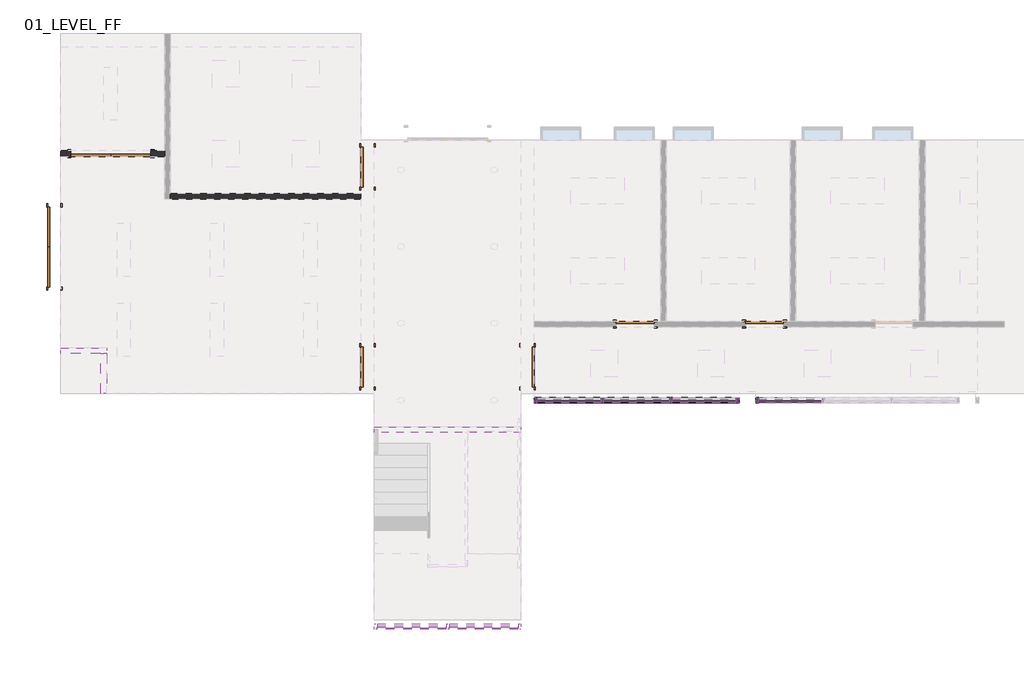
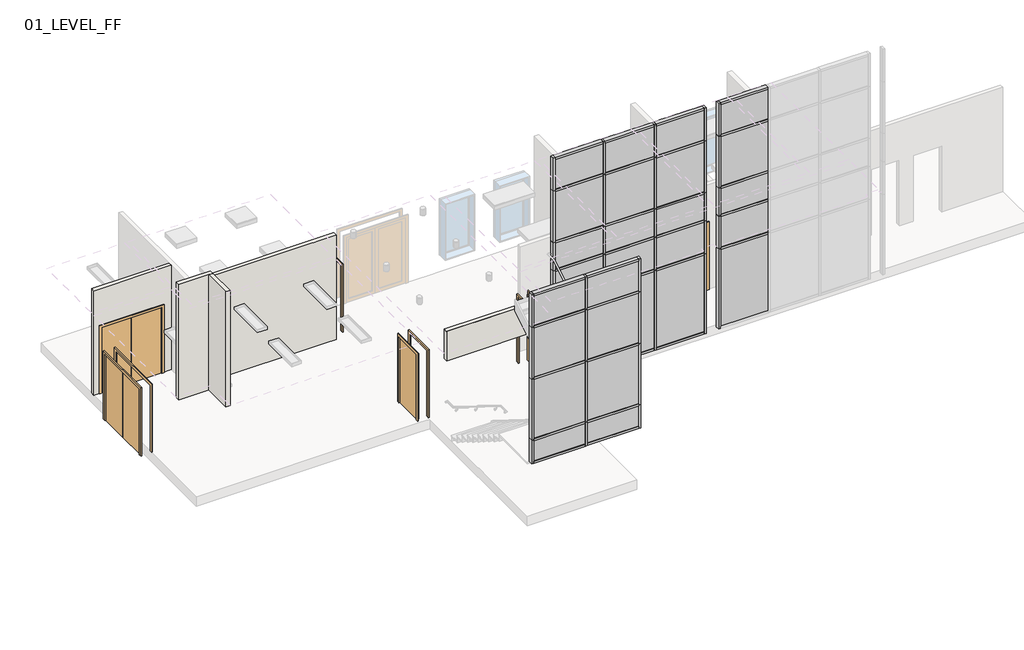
# One storey, part 1 of 3: 70 members, 28 plates, 7 doors, 5 walls.
"""IFC4 building model written with IfcOpenShell, lengths in millimetres."""

from ifc_helpers import new_model, si_unit, frame, origin, origin_with_axes, place, context, project, spatial, polyline, outline, extrude, faceted_brep, transform, mapped, element, save
from components import door_25d5a9ee, door_a672a27a, door_11f27327, door_180caff1, door_0eca04c9, member_247435d8, member_ca25ccc8, member_61742b2b, member_a715cb85, member_38e9bff8, member_3d45eb2f, member_c4de40ee, member_aa870034, member_062c1ce8, member_63e6437c, member_db72e543, member_00559c8f, member_41892664, member_cc0a3030, member_a8b93c61, member_410c6227, member_9f3fc137, member_73c23c35, member_a139046c, member_894628af, system_panel_glazed_a4485813, system_panel_glazed_9146deb3, system_panel_glazed_436c25eb, system_panel_glazed_93778ba0, system_panel_glazed_d206c218, system_panel_glazed_9321428d, system_panel_glazed_8d4e5907, system_panel_glazed_67cff217, system_panel_glazed_e6de4e38, system_panel_glazed_86ca5771, system_panel_glazed_09342f65, system_panel_glazed_67fd8e91, system_panel_solid_39076b36, system_panel_solid_c6db35ca, system_panel_solid_b1352277, system_panel_solid_d860d0ae, system_panel_solid_060e9704, system_panel_solid_47bad419, system_panel_solid_f38910df

model = new_model("IFC4")

# Units and contexts
model_context = context("Model", 3, world=origin())
ifc_project = project(units=[si_unit("LENGTHUNIT", "METRE", prefix="MILLI")], contexts=[model_context])

# Site, building, storey
site = spatial("IfcSite", under=ifc_project)
building = spatial("IfcBuilding", under=site)
storey = spatial("IfcBuildingStorey", under=building, Name="01_LEVEL_FF", Elevation=0.0)

# Doors
placement = place(None, origin())
door_shape = door_25d5a9ee(model_context)
element("IfcDoor", 1, ObjectType="Door-Double-Flush_Panel : 72\" x 84\"", at=placement, inside=storey, context=model_context, shape_type="MappedRepresentation", body=[
    mapped(door_shape, transform((22260.7816981, 31655.1332157, 0.0), x_axis=(-1.0, 0.0, 0.0), y_axis=(0.0, -1.0, 0.0), z_axis=(0.0, 0.0, 1.0))),
])
door_2_shape = door_a672a27a(model_context)
element("IfcDoor", 2, ObjectType="Door-Double-Flush_Panel : 72\" x 84\"", at=placement, inside=storey, context=model_context, shape_type="MappedRepresentation", body=[
    mapped(door_2_shape, transform((20965.3816981, 29521.5332157, 0.0), x_axis=(0.0, -1.0, 0.0), y_axis=(1.0, 0.0, 0.0), z_axis=(0.0, 0.0, 1.0))),
])
door_3_shape = door_11f27327(model_context)
element("IfcDoor", 3, ObjectType="Door-Single-Panel : 34\" x 84\"", at=placement, inside=storey, context=model_context, shape_type="MappedRepresentation", body=[
    mapped(door_3_shape, transform((34247.0416981, 27756.2332157, 0.0), x_axis=(1.0, 0.0, 0.0), y_axis=(0.0, 1.0, 0.0), z_axis=(0.0, 0.0, 1.0))),
])
element("IfcDoor", 4, ObjectType="Door-Single-Panel : 34\" x 84\"", at=placement, inside=storey, context=model_context, shape_type="MappedRepresentation", body=[
    mapped(door_3_shape, transform((37203.6016981, 27756.2332157, 0.0), x_axis=(1.0, 0.0, 0.0), y_axis=(0.0, 1.0, 0.0), z_axis=(0.0, 0.0, 1.0))),
])
door_4_shape = door_180caff1(model_context)
element("IfcDoor", 5, ObjectType="Door-Single-Panel : 36\" x 84\"", at=placement, inside=storey, context=model_context, shape_type="MappedRepresentation", body=[
    mapped(door_4_shape, transform((31785.7816981, 26778.3332157, 0.0), x_axis=(0.0, -1.0, 0.0), y_axis=(1.0, 0.0, 0.0), z_axis=(0.0, 0.0, 1.0))),
])
door_5_shape = door_0eca04c9(model_context)
element("IfcDoor", 6, ObjectType="Door-Single-Panel : 36\" x 84\"", at=placement, inside=storey, context=model_context, shape_type="MappedRepresentation", body=[
    mapped(door_5_shape, transform((28128.1816981, 26778.3332157, 0.0), x_axis=(0.0, -1.0, 0.0), y_axis=(1.0, 0.0, 0.0), z_axis=(0.0, 0.0, 1.0))),
])
element("IfcDoor", 7, ObjectType="Door-Single-Panel : 36\" x 84\"", at=placement, inside=storey, context=model_context, shape_type="MappedRepresentation", body=[
    mapped(door_5_shape, transform((28128.1816981, 31350.3332157, 0.0), x_axis=(0.0, -1.0, 0.0), y_axis=(1.0, 0.0, 0.0), z_axis=(0.0, 0.0, 1.0))),
])

# Members
member_shape = member_247435d8(model_context)
element("IfcMember", 8, ObjectType="Rectangular Mullion : 2.5\" x 5\" rectangular", at=placement, inside=storey, context=model_context, shape_type="MappedRepresentation", body=[
    mapped(member_shape, transform((28344.0816981, 20834.7332157, 7315.2), x_axis=(0.0, 0.0, 1.0), y_axis=(0.0, 1.0, 0.0), z_axis=(-1.0, 0.0, 0.0))),
])
element("IfcMember", 9, ObjectType="Rectangular Mullion : 2.5\" x 5\" rectangular", at=placement, inside=storey, context=model_context, shape_type="MappedRepresentation", body=[
    mapped(member_shape, transform((29988.7316981, 20834.7332157, 7315.2), x_axis=(0.0, 0.0, 1.0), y_axis=(0.0, 1.0, 0.0), z_axis=(-1.0, 0.0, 0.0))),
])
element("IfcMember", 10, ObjectType="Rectangular Mullion : 2.5\" x 5\" rectangular", at=placement, inside=storey, context=model_context, shape_type="MappedRepresentation", body=[
    mapped(member_shape, transform((31569.8816981, 20834.7332157, 1828.8), x_axis=(0.0, 0.0, -1.0), y_axis=(0.0, 1.0, 0.0), z_axis=(1.0, 0.0, 0.0))),
])
element("IfcMember", 11, ObjectType="Rectangular Mullion : 2.5\" x 5\" rectangular", at=placement, inside=storey, context=model_context, shape_type="MappedRepresentation", body=[
    mapped(member_shape, transform((29925.2316981, 20834.7332157, 1828.8), x_axis=(0.0, 0.0, -1.0), y_axis=(0.0, 1.0, 0.0), z_axis=(1.0, 0.0, 0.0))),
])
member_2_shape = member_ca25ccc8(model_context)
element("IfcMember", 12, ObjectType="Rectangular Mullion : 2.5\" x 5\" rectangular", at=placement, inside=storey, context=model_context, shape_type="MappedRepresentation", body=[
    mapped(member_2_shape, transform((29988.7316981, 20834.7332157, 6248.4), x_axis=(0.0, 0.0, 1.0), y_axis=(0.0, 1.0, 0.0), z_axis=(-1.0, 0.0, 0.0))),
])
element("IfcMember", 13, ObjectType="Rectangular Mullion : 2.5\" x 5\" rectangular", at=placement, inside=storey, context=model_context, shape_type="MappedRepresentation", body=[
    mapped(member_2_shape, transform((28344.0816981, 20834.7332157, 6248.4), x_axis=(0.0, 0.0, 1.0), y_axis=(0.0, 1.0, 0.0), z_axis=(-1.0, 0.0, 0.0))),
])
element("IfcMember", 14, ObjectType="Rectangular Mullion : 2.5\" x 5\" rectangular", at=placement, inside=storey, context=model_context, shape_type="MappedRepresentation", body=[
    mapped(member_2_shape, transform((29988.7316981, 20834.7332157, 4572.0), x_axis=(0.0, 0.0, 1.0), y_axis=(0.0, 1.0, 0.0), z_axis=(-1.0, 0.0, 0.0))),
])
element("IfcMember", 15, ObjectType="Rectangular Mullion : 2.5\" x 5\" rectangular", at=placement, inside=storey, context=model_context, shape_type="MappedRepresentation", body=[
    mapped(member_2_shape, transform((28344.0816981, 20834.7332157, 4572.0), x_axis=(0.0, 0.0, 1.0), y_axis=(0.0, 1.0, 0.0), z_axis=(-1.0, 0.0, 0.0))),
])
element("IfcMember", 16, ObjectType="Rectangular Mullion : 2.5\" x 5\" rectangular", at=placement, inside=storey, context=model_context, shape_type="MappedRepresentation", body=[
    mapped(member_2_shape, transform((29988.7316981, 20834.7332157, 2590.8), x_axis=(0.0, 0.0, 1.0), y_axis=(0.0, 1.0, 0.0), z_axis=(-1.0, 0.0, 0.0))),
])
element("IfcMember", 17, ObjectType="Rectangular Mullion : 2.5\" x 5\" rectangular", at=placement, inside=storey, context=model_context, shape_type="MappedRepresentation", body=[
    mapped(member_2_shape, transform((28344.0816981, 20834.7332157, 2590.8), x_axis=(0.0, 0.0, 1.0), y_axis=(0.0, 1.0, 0.0), z_axis=(-1.0, 0.0, 0.0))),
])
member_3_shape = member_61742b2b(model_context)
element("IfcMember", 18, ObjectType="Rectangular Mullion : 2.5\" x 5\" rectangular", at=placement, inside=storey, context=model_context, shape_type="MappedRepresentation", body=[
    mapped(member_3_shape, transform((29956.9816981, 20834.7332157, 1828.8), x_axis=(-1.0, 0.0, 0.0), y_axis=(0.0, 1.0, 0.0), z_axis=(0.0, 0.0, -1.0))),
])
member_4_shape = member_a715cb85(model_context)
element("IfcMember", 19, ObjectType="Rectangular Mullion : 2.5\" x 5\" rectangular", at=placement, inside=storey, context=model_context, shape_type="MappedRepresentation", body=[
    mapped(member_4_shape, transform((29956.9816981, 20834.7332157, 6248.4), x_axis=(-1.0, 0.0, 0.0), y_axis=(0.0, 1.0, 0.0), z_axis=(0.0, 0.0, -1.0))),
])
element("IfcMember", 20, ObjectType="Rectangular Mullion : 2.5\" x 5\" rectangular", at=placement, inside=storey, context=model_context, shape_type="MappedRepresentation", body=[
    mapped(member_4_shape, transform((33500.2816981, 26016.3332157, 6248.4), x_axis=(-1.0, 0.0, 0.0), y_axis=(0.0, 1.0, 0.0), z_axis=(0.0, 0.0, -1.0))),
])
element("IfcMember", 21, ObjectType="Rectangular Mullion : 2.5\" x 5\" rectangular", at=placement, inside=storey, context=model_context, shape_type="MappedRepresentation", body=[
    mapped(member_4_shape, transform((35062.3816981, 26016.3332157, 6248.4), x_axis=(-1.0, 0.0, 0.0), y_axis=(0.0, 1.0, 0.0), z_axis=(0.0, 0.0, -1.0))),
])
member_5_shape = member_38e9bff8(model_context)
element("IfcMember", 22, ObjectType="Rectangular Mullion : 2.5\" x 5\" rectangular", at=placement, inside=storey, context=model_context, shape_type="MappedRepresentation", body=[
    mapped(member_5_shape, transform((29956.9816981, 20834.7332157, 4572.0), x_axis=(-1.0, 0.0, 0.0), y_axis=(0.0, 1.0, 0.0), z_axis=(0.0, 0.0, -1.0))),
])
element("IfcMember", 23, ObjectType="Rectangular Mullion : 2.5\" x 5\" rectangular", at=placement, inside=storey, context=model_context, shape_type="MappedRepresentation", body=[
    mapped(member_5_shape, transform((33500.2816981, 26016.3332157, 4572.0), x_axis=(-1.0, 0.0, 0.0), y_axis=(0.0, 1.0, 0.0), z_axis=(0.0, 0.0, -1.0))),
])
element("IfcMember", 24, ObjectType="Rectangular Mullion : 2.5\" x 5\" rectangular", at=placement, inside=storey, context=model_context, shape_type="MappedRepresentation", body=[
    mapped(member_5_shape, transform((35062.3816981, 26016.3332157, 4572.0), x_axis=(-1.0, 0.0, 0.0), y_axis=(0.0, 1.0, 0.0), z_axis=(0.0, 0.0, -1.0))),
])
member_6_shape = member_3d45eb2f(model_context)
element("IfcMember", 25, ObjectType="Rectangular Mullion : 2.5\" x 5\" rectangular", at=placement, inside=storey, context=model_context, shape_type="MappedRepresentation", body=[
    mapped(member_6_shape, transform((29956.9816981, 20834.7332157, 2590.8), x_axis=(-1.0, 0.0, 0.0), y_axis=(0.0, 1.0, 0.0), z_axis=(0.0, 0.0, -1.0))),
])
member_7_shape = member_c4de40ee(model_context)
element("IfcMember", 26, ObjectType="Rectangular Mullion : 2.5\" x 5\" rectangular", at=placement, inside=storey, context=model_context, shape_type="MappedRepresentation", body=[
    mapped(member_7_shape, transform((31633.3816981, 20834.7332157, 7315.2), x_axis=(1.0, 0.0, 0.0), y_axis=(0.0, 1.0, 0.0), z_axis=(0.0, 0.0, 1.0))),
])
element("IfcMember", 27, ObjectType="Rectangular Mullion : 2.5\" x 5\" rectangular", at=placement, inside=storey, context=model_context, shape_type="MappedRepresentation", body=[
    mapped(member_7_shape, transform((36624.4816981, 26016.3332157, 7315.2), x_axis=(1.0, 0.0, 0.0), y_axis=(0.0, 1.0, 0.0), z_axis=(0.0, 0.0, 1.0))),
])
member_8_shape = member_aa870034(model_context)
element("IfcMember", 28, ObjectType="Rectangular Mullion : 2.5\" x 5\" rectangular", at=placement, inside=storey, context=model_context, shape_type="MappedRepresentation", body=[
    mapped(member_8_shape, transform((28280.5816981, 20834.7332157, 1828.8), x_axis=(-1.0, 0.0, 0.0), y_axis=(0.0, 1.0, 0.0), z_axis=(0.0, 0.0, -1.0))),
])
element("IfcMember", 29, ObjectType="Rectangular Mullion : 2.5\" x 5\" rectangular", at=placement, inside=storey, context=model_context, shape_type="MappedRepresentation", body=[
    mapped(member_7_shape, transform((28280.5816981, 20834.7332157, 6248.4), x_axis=(-1.0, 0.0, 0.0), y_axis=(0.0, 1.0, 0.0), z_axis=(0.0, 0.0, -1.0))),
])
element("IfcMember", 30, ObjectType="Rectangular Mullion : 2.5\" x 5\" rectangular", at=placement, inside=storey, context=model_context, shape_type="MappedRepresentation", body=[
    mapped(member_7_shape, transform((31938.1816981, 26016.3332157, 6248.4), x_axis=(-1.0, 0.0, 0.0), y_axis=(0.0, 1.0, 0.0), z_axis=(0.0, 0.0, -1.0))),
])
element("IfcMember", 31, ObjectType="Rectangular Mullion : 2.5\" x 5\" rectangular", at=placement, inside=storey, context=model_context, shape_type="MappedRepresentation", body=[
    mapped(member_7_shape, transform((37005.4816981, 26016.3332157, 6248.4), x_axis=(-1.0, 0.0, 0.0), y_axis=(0.0, 1.0, 0.0), z_axis=(0.0, 0.0, -1.0))),
])
member_9_shape = member_062c1ce8(model_context)
element("IfcMember", 32, ObjectType="Rectangular Mullion : 2.5\" x 5\" rectangular", at=placement, inside=storey, context=model_context, shape_type="MappedRepresentation", body=[
    mapped(member_9_shape, transform((28280.5816981, 20834.7332157, 4572.0), x_axis=(-1.0, 0.0, 0.0), y_axis=(0.0, 1.0, 0.0), z_axis=(0.0, 0.0, -1.0))),
])
element("IfcMember", 33, ObjectType="Rectangular Mullion : 2.5\" x 5\" rectangular", at=placement, inside=storey, context=model_context, shape_type="MappedRepresentation", body=[
    mapped(member_9_shape, transform((31938.1816981, 26016.3332157, 4572.0), x_axis=(-1.0, 0.0, 0.0), y_axis=(0.0, 1.0, 0.0), z_axis=(0.0, 0.0, -1.0))),
])
element("IfcMember", 34, ObjectType="Rectangular Mullion : 2.5\" x 5\" rectangular", at=placement, inside=storey, context=model_context, shape_type="MappedRepresentation", body=[
    mapped(member_9_shape, transform((37005.4816981, 26016.3332157, 4572.0), x_axis=(-1.0, 0.0, 0.0), y_axis=(0.0, 1.0, 0.0), z_axis=(0.0, 0.0, -1.0))),
])
member_10_shape = member_63e6437c(model_context)
element("IfcMember", 35, ObjectType="Rectangular Mullion : 2.5\" x 5\" rectangular", at=placement, inside=storey, context=model_context, shape_type="MappedRepresentation", body=[
    mapped(member_10_shape, transform((28280.5816981, 20834.7332157, 2590.8), x_axis=(-1.0, 0.0, 0.0), y_axis=(0.0, 1.0, 0.0), z_axis=(0.0, 0.0, -1.0))),
])
element("IfcMember", 36, ObjectType="Rectangular Mullion : 2.5\" x 5\" rectangular", at=placement, inside=storey, context=model_context, shape_type="MappedRepresentation", body=[
    mapped(member_9_shape, transform((31633.3816981, 20834.7332157, 6248.4), x_axis=(1.0, 0.0, 0.0), y_axis=(0.0, 1.0, 0.0), z_axis=(0.0, 0.0, 1.0))),
])
element("IfcMember", 37, ObjectType="Rectangular Mullion : 2.5\" x 5\" rectangular", at=placement, inside=storey, context=model_context, shape_type="MappedRepresentation", body=[
    mapped(member_9_shape, transform((36624.4816981, 26016.3332157, 6248.4), x_axis=(1.0, 0.0, 0.0), y_axis=(0.0, 1.0, 0.0), z_axis=(0.0, 0.0, 1.0))),
])
element("IfcMember", 38, ObjectType="Rectangular Mullion : 2.5\" x 5\" rectangular", at=placement, inside=storey, context=model_context, shape_type="MappedRepresentation", body=[
    mapped(member_10_shape, transform((31633.3816981, 20834.7332157, 4572.0), x_axis=(1.0, 0.0, 0.0), y_axis=(0.0, 1.0, 0.0), z_axis=(0.0, 0.0, 1.0))),
])
element("IfcMember", 39, ObjectType="Rectangular Mullion : 2.5\" x 5\" rectangular", at=placement, inside=storey, context=model_context, shape_type="MappedRepresentation", body=[
    mapped(member_8_shape, transform((31633.3816981, 20834.7332157, 2590.8), x_axis=(1.0, 0.0, 0.0), y_axis=(0.0, 1.0, 0.0), z_axis=(0.0, 0.0, 1.0))),
])
member_11_shape = member_db72e543(model_context)
element("IfcMember", 40, ObjectType="Rectangular Mullion : 2.5\" x 5\" rectangular", at=placement, inside=storey, context=model_context, shape_type="MappedRepresentation", body=[
    mapped(member_11_shape, transform((32001.6816981, 26016.3332157, 7315.2), x_axis=(0.0, 0.0, 1.0), y_axis=(0.0, 1.0, 0.0), z_axis=(-1.0, 0.0, 0.0))),
])
element("IfcMember", 41, ObjectType="Rectangular Mullion : 2.5\" x 5\" rectangular", at=placement, inside=storey, context=model_context, shape_type="MappedRepresentation", body=[
    mapped(member_11_shape, transform((35094.1316981, 26016.3332157, 7315.2), x_axis=(0.0, 0.0, 1.0), y_axis=(0.0, 1.0, 0.0), z_axis=(-1.0, 0.0, 0.0))),
])
element("IfcMember", 42, ObjectType="Rectangular Mullion : 2.5\" x 5\" rectangular", at=placement, inside=storey, context=model_context, shape_type="MappedRepresentation", body=[
    mapped(member_11_shape, transform((36560.9816981, 26016.3332157, 0.0), x_axis=(0.0, 0.0, -1.0), y_axis=(0.0, 1.0, 0.0), z_axis=(1.0, 0.0, 0.0))),
])
element("IfcMember", 43, ObjectType="Rectangular Mullion : 2.5\" x 5\" rectangular", at=placement, inside=storey, context=model_context, shape_type="MappedRepresentation", body=[
    mapped(member_11_shape, transform((33468.5316981, 26016.3332157, 0.0), x_axis=(0.0, 0.0, -1.0), y_axis=(0.0, 1.0, 0.0), z_axis=(1.0, 0.0, 0.0))),
])
member_12_shape = member_00559c8f(model_context)
element("IfcMember", 44, ObjectType="Rectangular Mullion : 2.5\" x 5\" rectangular", at=placement, inside=storey, context=model_context, shape_type="MappedRepresentation", body=[
    mapped(member_12_shape, transform((35094.1316981, 26016.3332157, 6248.4), x_axis=(0.0, 0.0, 1.0), y_axis=(0.0, 1.0, 0.0), z_axis=(-1.0, 0.0, 0.0))),
])
element("IfcMember", 45, ObjectType="Rectangular Mullion : 2.5\" x 5\" rectangular", at=placement, inside=storey, context=model_context, shape_type="MappedRepresentation", body=[
    mapped(member_12_shape, transform((32001.6816981, 26016.3332157, 6248.4), x_axis=(0.0, 0.0, 1.0), y_axis=(0.0, 1.0, 0.0), z_axis=(-1.0, 0.0, 0.0))),
])
element("IfcMember", 46, ObjectType="Rectangular Mullion : 2.5\" x 5\" rectangular", at=placement, inside=storey, context=model_context, shape_type="MappedRepresentation", body=[
    mapped(member_12_shape, transform((35094.1316981, 26016.3332157, 3657.6), x_axis=(0.0, 0.0, 1.0), y_axis=(0.0, 1.0, 0.0), z_axis=(-1.0, 0.0, 0.0))),
])
element("IfcMember", 47, ObjectType="Rectangular Mullion : 2.5\" x 5\" rectangular", at=placement, inside=storey, context=model_context, shape_type="MappedRepresentation", body=[
    mapped(member_12_shape, transform((32001.6816981, 26016.3332157, 3657.6), x_axis=(0.0, 0.0, 1.0), y_axis=(0.0, 1.0, 0.0), z_axis=(-1.0, 0.0, 0.0))),
])
element("IfcMember", 48, ObjectType="Rectangular Mullion : 2.5\" x 5\" rectangular", at=placement, inside=storey, context=model_context, shape_type="MappedRepresentation", body=[
    mapped(member_12_shape, transform((35094.1316981, 26016.3332157, 2590.8), x_axis=(0.0, 0.0, 1.0), y_axis=(0.0, 1.0, 0.0), z_axis=(-1.0, 0.0, 0.0))),
])
element("IfcMember", 49, ObjectType="Rectangular Mullion : 2.5\" x 5\" rectangular", at=placement, inside=storey, context=model_context, shape_type="MappedRepresentation", body=[
    mapped(member_12_shape, transform((32001.6816981, 26016.3332157, 2590.8), x_axis=(0.0, 0.0, 1.0), y_axis=(0.0, 1.0, 0.0), z_axis=(-1.0, 0.0, 0.0))),
])
element("IfcMember", 50, ObjectType="Rectangular Mullion : 2.5\" x 5\" rectangular", at=placement, inside=storey, context=model_context, shape_type="MappedRepresentation", body=[
    mapped(member_12_shape, transform((35094.1316981, 26016.3332157, 4572.0), x_axis=(0.0, 0.0, 1.0), y_axis=(0.0, 1.0, 0.0), z_axis=(-1.0, 0.0, 0.0))),
])
element("IfcMember", 51, ObjectType="Rectangular Mullion : 2.5\" x 5\" rectangular", at=placement, inside=storey, context=model_context, shape_type="MappedRepresentation", body=[
    mapped(member_12_shape, transform((32001.6816981, 26016.3332157, 4572.0), x_axis=(0.0, 0.0, 1.0), y_axis=(0.0, 1.0, 0.0), z_axis=(-1.0, 0.0, 0.0))),
])
member_13_shape = member_41892664(model_context)
element("IfcMember", 52, ObjectType="Rectangular Mullion : 2.5\" x 5\" rectangular", at=placement, inside=storey, context=model_context, shape_type="MappedRepresentation", body=[
    mapped(member_13_shape, transform((33532.0316981, 26016.3332157, 6248.4), x_axis=(0.0, 0.0, 1.0), y_axis=(0.0, 1.0, 0.0), z_axis=(-1.0, 0.0, 0.0))),
])
element("IfcMember", 53, ObjectType="Rectangular Mullion : 2.5\" x 5\" rectangular", at=placement, inside=storey, context=model_context, shape_type="MappedRepresentation", body=[
    mapped(member_13_shape, transform((33532.0316981, 26016.3332157, 3657.6), x_axis=(0.0, 0.0, 1.0), y_axis=(0.0, 1.0, 0.0), z_axis=(-1.0, 0.0, 0.0))),
])
element("IfcMember", 54, ObjectType="Rectangular Mullion : 2.5\" x 5\" rectangular", at=placement, inside=storey, context=model_context, shape_type="MappedRepresentation", body=[
    mapped(member_13_shape, transform((33532.0316981, 26016.3332157, 2590.8), x_axis=(0.0, 0.0, 1.0), y_axis=(0.0, 1.0, 0.0), z_axis=(-1.0, 0.0, 0.0))),
])
element("IfcMember", 55, ObjectType="Rectangular Mullion : 2.5\" x 5\" rectangular", at=placement, inside=storey, context=model_context, shape_type="MappedRepresentation", body=[
    mapped(member_13_shape, transform((33532.0316981, 26016.3332157, 4572.0), x_axis=(0.0, 0.0, 1.0), y_axis=(0.0, 1.0, 0.0), z_axis=(-1.0, 0.0, 0.0))),
])
member_14_shape = member_cc0a3030(model_context)
element("IfcMember", 56, ObjectType="Rectangular Mullion : 2.5\" x 5\" rectangular", at=placement, inside=storey, context=model_context, shape_type="MappedRepresentation", body=[
    mapped(member_14_shape, transform((33500.2816981, 26016.3332157, 0.0), x_axis=(-1.0, 0.0, 0.0), y_axis=(0.0, 1.0, 0.0), z_axis=(0.0, 0.0, -1.0))),
])
element("IfcMember", 57, ObjectType="Rectangular Mullion : 2.5\" x 5\" rectangular", at=placement, inside=storey, context=model_context, shape_type="MappedRepresentation", body=[
    mapped(member_14_shape, transform((35062.3816981, 26016.3332157, 0.0), x_axis=(-1.0, 0.0, 0.0), y_axis=(0.0, 1.0, 0.0), z_axis=(0.0, 0.0, -1.0))),
])
member_15_shape = member_a8b93c61(model_context)
element("IfcMember", 58, ObjectType="Rectangular Mullion : 2.5\" x 5\" rectangular", at=placement, inside=storey, context=model_context, shape_type="MappedRepresentation", body=[
    mapped(member_15_shape, transform((35030.6316981, 26016.3332157, 0.0), x_axis=(0.0, 0.0, -1.0), y_axis=(0.0, 1.0, 0.0), z_axis=(1.0, 0.0, 0.0))),
])
element("IfcMember", 59, ObjectType="Rectangular Mullion : 2.5\" x 5\" rectangular", at=placement, inside=storey, context=model_context, shape_type="MappedRepresentation", body=[
    mapped(member_15_shape, transform((33532.0316981, 26016.3332157, 7315.2), x_axis=(0.0, 0.0, 1.0), y_axis=(0.0, 1.0, 0.0), z_axis=(-1.0, 0.0, 0.0))),
])
member_16_shape = member_410c6227(model_context)
element("IfcMember", 60, ObjectType="Rectangular Mullion : 2.5\" x 5\" rectangular", at=placement, inside=storey, context=model_context, shape_type="MappedRepresentation", body=[
    mapped(member_16_shape, transform((33500.2816981, 26016.3332157, 3657.6), x_axis=(-1.0, 0.0, 0.0), y_axis=(0.0, 1.0, 0.0), z_axis=(0.0, 0.0, -1.0))),
])
element("IfcMember", 61, ObjectType="Rectangular Mullion : 2.5\" x 5\" rectangular", at=placement, inside=storey, context=model_context, shape_type="MappedRepresentation", body=[
    mapped(member_16_shape, transform((35062.3816981, 26016.3332157, 3657.6), x_axis=(-1.0, 0.0, 0.0), y_axis=(0.0, 1.0, 0.0), z_axis=(0.0, 0.0, -1.0))),
])
element("IfcMember", 62, ObjectType="Rectangular Mullion : 2.5\" x 5\" rectangular", at=placement, inside=storey, context=model_context, shape_type="MappedRepresentation", body=[
    mapped(member_4_shape, transform((33500.2816981, 26016.3332157, 2590.8), x_axis=(-1.0, 0.0, 0.0), y_axis=(0.0, 1.0, 0.0), z_axis=(0.0, 0.0, -1.0))),
])
element("IfcMember", 63, ObjectType="Rectangular Mullion : 2.5\" x 5\" rectangular", at=placement, inside=storey, context=model_context, shape_type="MappedRepresentation", body=[
    mapped(member_4_shape, transform((35062.3816981, 26016.3332157, 2590.8), x_axis=(-1.0, 0.0, 0.0), y_axis=(0.0, 1.0, 0.0), z_axis=(0.0, 0.0, -1.0))),
])
member_17_shape = member_9f3fc137(model_context)
element("IfcMember", 64, ObjectType="Rectangular Mullion : 2.5\" x 5\" rectangular", at=placement, inside=storey, context=model_context, shape_type="MappedRepresentation", body=[
    mapped(member_17_shape, transform((31938.1816981, 26016.3332157, 0.0), x_axis=(-1.0, 0.0, 0.0), y_axis=(0.0, 1.0, 0.0), z_axis=(0.0, 0.0, -1.0))),
])
element("IfcMember", 65, ObjectType="Rectangular Mullion : 2.5\" x 5\" rectangular", at=placement, inside=storey, context=model_context, shape_type="MappedRepresentation", body=[
    mapped(member_17_shape, transform((37005.4816981, 26016.3332157, 0.0), x_axis=(-1.0, 0.0, 0.0), y_axis=(0.0, 1.0, 0.0), z_axis=(0.0, 0.0, -1.0))),
])
member_18_shape = member_73c23c35(model_context)
element("IfcMember", 66, ObjectType="Rectangular Mullion : 2.5\" x 5\" rectangular", at=placement, inside=storey, context=model_context, shape_type="MappedRepresentation", body=[
    mapped(member_18_shape, transform((31938.1816981, 26016.3332157, 3657.6), x_axis=(-1.0, 0.0, 0.0), y_axis=(0.0, 1.0, 0.0), z_axis=(0.0, 0.0, -1.0))),
])
element("IfcMember", 67, ObjectType="Rectangular Mullion : 2.5\" x 5\" rectangular", at=placement, inside=storey, context=model_context, shape_type="MappedRepresentation", body=[
    mapped(member_18_shape, transform((37005.4816981, 26016.3332157, 3657.6), x_axis=(-1.0, 0.0, 0.0), y_axis=(0.0, 1.0, 0.0), z_axis=(0.0, 0.0, -1.0))),
])
element("IfcMember", 68, ObjectType="Rectangular Mullion : 2.5\" x 5\" rectangular", at=placement, inside=storey, context=model_context, shape_type="MappedRepresentation", body=[
    mapped(member_7_shape, transform((31938.1816981, 26016.3332157, 2590.8), x_axis=(-1.0, 0.0, 0.0), y_axis=(0.0, 1.0, 0.0), z_axis=(0.0, 0.0, -1.0))),
])
element("IfcMember", 69, ObjectType="Rectangular Mullion : 2.5\" x 5\" rectangular", at=placement, inside=storey, context=model_context, shape_type="MappedRepresentation", body=[
    mapped(member_7_shape, transform((37005.4816981, 26016.3332157, 2590.8), x_axis=(-1.0, 0.0, 0.0), y_axis=(0.0, 1.0, 0.0), z_axis=(0.0, 0.0, -1.0))),
])
element("IfcMember", 70, ObjectType="Rectangular Mullion : 2.5\" x 5\" rectangular", at=placement, inside=storey, context=model_context, shape_type="MappedRepresentation", body=[
    mapped(member_7_shape, transform((36624.4816981, 26016.3332157, 3657.6), x_axis=(1.0, 0.0, 0.0), y_axis=(0.0, 1.0, 0.0), z_axis=(0.0, 0.0, 1.0))),
])
element("IfcMember", 71, ObjectType="Rectangular Mullion : 2.5\" x 5\" rectangular", at=placement, inside=storey, context=model_context, shape_type="MappedRepresentation", body=[
    mapped(member_17_shape, transform((36624.4816981, 26016.3332157, 2590.8), x_axis=(1.0, 0.0, 0.0), y_axis=(0.0, 1.0, 0.0), z_axis=(0.0, 0.0, 1.0))),
])
element("IfcMember", 72, ObjectType="Rectangular Mullion : 2.5\" x 5\" rectangular", at=placement, inside=storey, context=model_context, shape_type="MappedRepresentation", body=[
    mapped(member_18_shape, transform((36624.4816981, 26016.3332157, 4572.0), x_axis=(1.0, 0.0, 0.0), y_axis=(0.0, 1.0, 0.0), z_axis=(0.0, 0.0, 1.0))),
])
member_19_shape = member_a139046c(model_context)
element("IfcMember", 73, ObjectType="Rectangular Mullion : 2.5\" x 5\" rectangular", at=placement, inside=storey, context=model_context, shape_type="MappedRepresentation", body=[
    mapped(member_19_shape, transform((37068.9816981, 26016.3332157, 7315.2), x_axis=(0.0, 0.0, 1.0), y_axis=(0.0, 1.0, 0.0), z_axis=(-1.0, 0.0, 0.0))),
])
member_20_shape = member_894628af(model_context)
element("IfcMember", 74, ObjectType="Rectangular Mullion : 2.5\" x 5\" rectangular", at=placement, inside=storey, context=model_context, shape_type="MappedRepresentation", body=[
    mapped(member_20_shape, transform((37068.9816981, 26016.3332157, 2590.8), x_axis=(0.0, 0.0, 1.0), y_axis=(0.0, 1.0, 0.0), z_axis=(-1.0, 0.0, 0.0))),
])
element("IfcMember", 75, ObjectType="Rectangular Mullion : 2.5\" x 5\" rectangular", at=placement, inside=storey, context=model_context, shape_type="MappedRepresentation", body=[
    mapped(member_20_shape, transform((37068.9816981, 26016.3332157, 6248.4), x_axis=(0.0, 0.0, 1.0), y_axis=(0.0, 1.0, 0.0), z_axis=(-1.0, 0.0, 0.0))),
])
element("IfcMember", 76, ObjectType="Rectangular Mullion : 2.5\" x 5\" rectangular", at=placement, inside=storey, context=model_context, shape_type="MappedRepresentation", body=[
    mapped(member_20_shape, transform((37068.9816981, 26016.3332157, 4572.0), x_axis=(0.0, 0.0, 1.0), y_axis=(0.0, 1.0, 0.0), z_axis=(-1.0, 0.0, 0.0))),
])
element("IfcMember", 77, ObjectType="Rectangular Mullion : 2.5\" x 5\" rectangular", at=placement, inside=storey, context=model_context, shape_type="MappedRepresentation", body=[
    mapped(member_20_shape, transform((37068.9816981, 26016.3332157, 3657.6), x_axis=(0.0, 0.0, 1.0), y_axis=(0.0, 1.0, 0.0), z_axis=(-1.0, 0.0, 0.0))),
])

# Plates
system_panel_glazed_shape = system_panel_glazed_a4485813(model_context)
element("IfcPlate", 78, ObjectType="System Panel : Glazed", at=placement, inside=storey, context=model_context, shape_type="MappedRepresentation", body=[
    mapped(system_panel_glazed_shape, transform((30779.3066981, 20834.7332157, 1892.3), x_axis=(-1.0, 0.0, 0.0), y_axis=(0.0, -1.0, 0.0), z_axis=(0.0, 0.0, 1.0))),
])
element("IfcPlate", 79, ObjectType="System Panel : Glazed", at=placement, inside=storey, context=model_context, shape_type="MappedRepresentation", body=[
    mapped(system_panel_glazed_shape, transform((29134.6566981, 20834.7332157, 1892.3), x_axis=(-1.0, 0.0, 0.0), y_axis=(0.0, -1.0, 0.0), z_axis=(0.0, 0.0, 1.0))),
])
system_panel_glazed_2_shape = system_panel_glazed_9146deb3(model_context)
element("IfcPlate", 80, ObjectType="System Panel : Glazed", at=placement, inside=storey, context=model_context, shape_type="MappedRepresentation", body=[
    mapped(system_panel_glazed_2_shape, transform((30779.3066981, 20834.7332157, 4603.75), x_axis=(-1.0, 0.0, 0.0), y_axis=(0.0, -1.0, 0.0), z_axis=(0.0, 0.0, 1.0))),
])
element("IfcPlate", 81, ObjectType="System Panel : Glazed", at=placement, inside=storey, context=model_context, shape_type="MappedRepresentation", body=[
    mapped(system_panel_glazed_2_shape, transform((29134.6566981, 20834.7332157, 4603.75), x_axis=(-1.0, 0.0, 0.0), y_axis=(0.0, -1.0, 0.0), z_axis=(0.0, 0.0, 1.0))),
])
system_panel_glazed_3_shape = system_panel_glazed_436c25eb(model_context)
element("IfcPlate", 82, ObjectType="System Panel : Glazed", at=placement, inside=storey, context=model_context, shape_type="MappedRepresentation", body=[
    mapped(system_panel_glazed_3_shape, transform((30779.3066981, 20834.7332157, 2622.55), x_axis=(-1.0, 0.0, 0.0), y_axis=(0.0, -1.0, 0.0), z_axis=(0.0, 0.0, 1.0))),
])
element("IfcPlate", 83, ObjectType="System Panel : Glazed", at=placement, inside=storey, context=model_context, shape_type="MappedRepresentation", body=[
    mapped(system_panel_glazed_3_shape, transform((29134.6566981, 20834.7332157, 2622.55), x_axis=(-1.0, 0.0, 0.0), y_axis=(0.0, -1.0, 0.0), z_axis=(0.0, 0.0, 1.0))),
])
system_panel_glazed_4_shape = system_panel_glazed_93778ba0(model_context)
element("IfcPlate", 84, ObjectType="System Panel : Glazed", at=placement, inside=storey, context=model_context, shape_type="MappedRepresentation", body=[
    mapped(system_panel_glazed_4_shape, transform((35827.5566981, 26016.3332157, 63.5), x_axis=(-1.0, 0.0, 0.0), y_axis=(0.0, -1.0, 0.0), z_axis=(0.0, 0.0, 1.0))),
])
element("IfcPlate", 85, ObjectType="System Panel : Glazed", at=placement, inside=storey, context=model_context, shape_type="MappedRepresentation", body=[
    mapped(system_panel_glazed_4_shape, transform((32735.1066981, 26016.3332157, 63.5), x_axis=(-1.0, 0.0, 0.0), y_axis=(0.0, -1.0, 0.0), z_axis=(0.0, 0.0, 1.0))),
])
system_panel_glazed_5_shape = system_panel_glazed_d206c218(model_context)
element("IfcPlate", 86, ObjectType="System Panel : Glazed", at=placement, inside=storey, context=model_context, shape_type="MappedRepresentation", body=[
    mapped(system_panel_glazed_5_shape, transform((35827.5566981, 26016.3332157, 3689.35), x_axis=(-1.0, 0.0, 0.0), y_axis=(0.0, -1.0, 0.0), z_axis=(0.0, 0.0, 1.0))),
])
element("IfcPlate", 87, ObjectType="System Panel : Glazed", at=placement, inside=storey, context=model_context, shape_type="MappedRepresentation", body=[
    mapped(system_panel_glazed_5_shape, transform((32735.1066981, 26016.3332157, 3689.35), x_axis=(-1.0, 0.0, 0.0), y_axis=(0.0, -1.0, 0.0), z_axis=(0.0, 0.0, 1.0))),
])
system_panel_glazed_6_shape = system_panel_glazed_9321428d(model_context)
element("IfcPlate", 88, ObjectType="System Panel : Glazed", at=placement, inside=storey, context=model_context, shape_type="MappedRepresentation", body=[
    mapped(system_panel_glazed_6_shape, transform((34281.3316981, 26016.3332157, 63.5), x_axis=(-1.0, 0.0, 0.0), y_axis=(0.0, -1.0, 0.0), z_axis=(0.0, 0.0, 1.0))),
])
system_panel_glazed_7_shape = system_panel_glazed_8d4e5907(model_context)
element("IfcPlate", 89, ObjectType="System Panel : Glazed", at=placement, inside=storey, context=model_context, shape_type="MappedRepresentation", body=[
    mapped(system_panel_glazed_7_shape, transform((34281.3316981, 26016.3332157, 3689.35), x_axis=(-1.0, 0.0, 0.0), y_axis=(0.0, -1.0, 0.0), z_axis=(0.0, 0.0, 1.0))),
])
system_panel_glazed_8_shape = system_panel_glazed_67cff217(model_context)
element("IfcPlate", 90, ObjectType="System Panel : Glazed", at=placement, inside=storey, context=model_context, shape_type="MappedRepresentation", body=[
    mapped(system_panel_glazed_8_shape, transform((35827.5566981, 26016.3332157, 4603.75), x_axis=(-1.0, 0.0, 0.0), y_axis=(0.0, -1.0, 0.0), z_axis=(0.0, 0.0, 1.0))),
])
element("IfcPlate", 91, ObjectType="System Panel : Glazed", at=placement, inside=storey, context=model_context, shape_type="MappedRepresentation", body=[
    mapped(system_panel_glazed_8_shape, transform((32735.1066981, 26016.3332157, 4603.75), x_axis=(-1.0, 0.0, 0.0), y_axis=(0.0, -1.0, 0.0), z_axis=(0.0, 0.0, 1.0))),
])
system_panel_glazed_9_shape = system_panel_glazed_e6de4e38(model_context)
element("IfcPlate", 92, ObjectType="System Panel : Glazed", at=placement, inside=storey, context=model_context, shape_type="MappedRepresentation", body=[
    mapped(system_panel_glazed_9_shape, transform((34281.3316981, 26016.3332157, 4603.75), x_axis=(-1.0, 0.0, 0.0), y_axis=(0.0, -1.0, 0.0), z_axis=(0.0, 0.0, 1.0))),
])
system_panel_glazed_10_shape = system_panel_glazed_86ca5771(model_context)
element("IfcPlate", 93, ObjectType="System Panel : Glazed", at=placement, inside=storey, context=model_context, shape_type="MappedRepresentation", body=[
    mapped(system_panel_glazed_10_shape, transform((37796.0566981, 26016.3332157, 63.5), x_axis=(-1.0, 0.0, 0.0), y_axis=(0.0, -1.0, 0.0), z_axis=(0.0, 0.0, 1.0))),
])
system_panel_glazed_11_shape = system_panel_glazed_09342f65(model_context)
element("IfcPlate", 94, ObjectType="System Panel : Glazed", at=placement, inside=storey, context=model_context, shape_type="MappedRepresentation", body=[
    mapped(system_panel_glazed_11_shape, transform((37796.0566981, 26016.3332157, 4603.75), x_axis=(-1.0, 0.0, 0.0), y_axis=(0.0, -1.0, 0.0), z_axis=(0.0, 0.0, 1.0))),
])
system_panel_glazed_12_shape = system_panel_glazed_67fd8e91(model_context)
element("IfcPlate", 95, ObjectType="System Panel : Glazed", at=placement, inside=storey, context=model_context, shape_type="MappedRepresentation", body=[
    mapped(system_panel_glazed_12_shape, transform((37796.0566981, 26016.3332157, 3689.35), x_axis=(-1.0, 0.0, 0.0), y_axis=(0.0, -1.0, 0.0), z_axis=(0.0, 0.0, 1.0))),
])
system_panel_solid_shape = system_panel_solid_39076b36(model_context)
element("IfcPlate", 96, ObjectType="System Panel : Solid", at=placement, inside=storey, context=model_context, shape_type="MappedRepresentation", body=[
    mapped(system_panel_solid_shape, transform((30779.3066981, 20834.7332157, 6280.15), x_axis=(-1.0, 0.0, 0.0), y_axis=(0.0, -1.0, 0.0), z_axis=(0.0, 0.0, 1.0))),
])
element("IfcPlate", 97, ObjectType="System Panel : Solid", at=placement, inside=storey, context=model_context, shape_type="MappedRepresentation", body=[
    mapped(system_panel_solid_shape, transform((29134.6566981, 20834.7332157, 6280.15), x_axis=(-1.0, 0.0, 0.0), y_axis=(0.0, -1.0, 0.0), z_axis=(0.0, 0.0, 1.0))),
])
system_panel_solid_2_shape = system_panel_solid_c6db35ca(model_context)
element("IfcPlate", 98, ObjectType="System Panel : Solid", at=placement, inside=storey, context=model_context, shape_type="MappedRepresentation", body=[
    mapped(system_panel_solid_2_shape, transform((35827.5566981, 26016.3332157, 2622.55), x_axis=(-1.0, 0.0, 0.0), y_axis=(0.0, -1.0, 0.0), z_axis=(0.0, 0.0, 1.0))),
])
element("IfcPlate", 99, ObjectType="System Panel : Solid", at=placement, inside=storey, context=model_context, shape_type="MappedRepresentation", body=[
    mapped(system_panel_solid_2_shape, transform((32735.1066981, 26016.3332157, 2622.55), x_axis=(-1.0, 0.0, 0.0), y_axis=(0.0, -1.0, 0.0), z_axis=(0.0, 0.0, 1.0))),
])
system_panel_solid_3_shape = system_panel_solid_b1352277(model_context)
element("IfcPlate", 100, ObjectType="System Panel : Solid", at=placement, inside=storey, context=model_context, shape_type="MappedRepresentation", body=[
    mapped(system_panel_solid_3_shape, transform((34281.3316981, 26016.3332157, 2622.55), x_axis=(-1.0, 0.0, 0.0), y_axis=(0.0, -1.0, 0.0), z_axis=(0.0, 0.0, 1.0))),
])
system_panel_solid_4_shape = system_panel_solid_d860d0ae(model_context)
element("IfcPlate", 101, ObjectType="System Panel : Solid", at=placement, inside=storey, context=model_context, shape_type="MappedRepresentation", body=[
    mapped(system_panel_solid_4_shape, transform((37796.0566981, 26016.3332157, 2622.55), x_axis=(-1.0, 0.0, 0.0), y_axis=(0.0, -1.0, 0.0), z_axis=(0.0, 0.0, 1.0))),
])
system_panel_solid_5_shape = system_panel_solid_060e9704(model_context)
element("IfcPlate", 102, ObjectType="System Panel : Solid", at=placement, inside=storey, context=model_context, shape_type="MappedRepresentation", body=[
    mapped(system_panel_solid_5_shape, transform((35827.5566981, 26016.3332157, 6280.15), x_axis=(-1.0, 0.0, 0.0), y_axis=(0.0, -1.0, 0.0), z_axis=(0.0, 0.0, 1.0))),
])
element("IfcPlate", 103, ObjectType="System Panel : Solid", at=placement, inside=storey, context=model_context, shape_type="MappedRepresentation", body=[
    mapped(system_panel_solid_5_shape, transform((32735.1066981, 26016.3332157, 6280.15), x_axis=(-1.0, 0.0, 0.0), y_axis=(0.0, -1.0, 0.0), z_axis=(0.0, 0.0, 1.0))),
])
system_panel_solid_6_shape = system_panel_solid_47bad419(model_context)
element("IfcPlate", 104, ObjectType="System Panel : Solid", at=placement, inside=storey, context=model_context, shape_type="MappedRepresentation", body=[
    mapped(system_panel_solid_6_shape, transform((34281.3316981, 26016.3332157, 6280.15), x_axis=(-1.0, 0.0, 0.0), y_axis=(0.0, -1.0, 0.0), z_axis=(0.0, 0.0, 1.0))),
])
system_panel_solid_7_shape = system_panel_solid_f38910df(model_context)
element("IfcPlate", 105, ObjectType="System Panel : Solid", at=placement, inside=storey, context=model_context, shape_type="MappedRepresentation", body=[
    mapped(system_panel_solid_7_shape, transform((37796.0566981, 26016.3332157, 6280.15), x_axis=(-1.0, 0.0, 0.0), y_axis=(0.0, -1.0, 0.0), z_axis=(0.0, 0.0, 1.0))),
])

# Walls
element("IfcWall", 106, ObjectType="Generic - 5\"", at=placement, inside=storey, context=model_context, shape_type="SweptSolid", body=[
    extrude(outline(polyline([(23619.6816981, 30740.7332157), (27975.7816981, 30740.7332157), (27975.7816981, 30613.7332157), (23619.6816981, 30613.7332157), (23619.6816981, 30740.7332157)])), origin_with_axes(), (0.0, 0.0, 1.0), 3384.55),
])
element("IfcWall", 107, ObjectType="Generic - 5\"", at=placement, inside=storey, context=model_context, shape_type="SweptSolid", body=[
    extrude(outline(polyline([(3384.55, 21117.7816981), (0.0, 21117.7816981), (0.0, 21346.3816981), (2133.6, 21346.3816981), (2133.6, 23175.1816981), (0.0, 23175.1816981), (0.0, 23492.6816981), (3384.55, 23492.6816981), (3384.55, 21117.7816981)])), frame((0.0, 31591.6332157, 0.0), z_axis=(0.0, 1.0, 0.0), x_axis=(0.0, 0.0, 1.0)), (0.0, 0.0, 1.0), 127.0),
])
element("IfcWall", 108, ObjectType="Generic - 5\"", at=placement, inside=storey, context=model_context, shape_type="Brep", body=[
    faceted_brep([(21117.7816981, 27083.1332157, 2590.8), (22032.1816981, 27083.1332157, 2590.8), (22159.1816981, 27083.1332157, 2590.8), (22159.1816981, 27083.1332157, 3384.55), (22159.1816981, 27083.1332157, 3657.6), (22159.1816981, 27083.1332157, 6324.6), (22032.1816981, 27083.1332157, 6324.6), (21117.7816981, 27083.1332157, 6324.6), (22159.1816981, 27210.1332157, 2590.8), (21117.7816981, 27210.1332157, 2590.8), (21117.7816981, 27210.1332157, 3384.55), (21117.7816981, 27210.1332157, 3657.6), (21117.7816981, 27210.1332157, 6324.6), (22159.1816981, 27210.1332157, 6324.6), (22159.1816981, 27210.1332157, 3657.6), (22159.1816981, 27210.1332157, 3384.55)], [[[0, 1, 2, 3, 4, 5, 6, 7]], [[8, 9, 10, 11, 12, 13, 14, 15]], [[2, 1, 0, 9, 8]], [[7, 6, 5, 13, 12]], [[0, 7, 12, 11, 10, 9]], [[2, 8, 15, 14, 13, 5, 4, 3]]]),
])
element("IfcWall", 109, ObjectType="Generic - 5\"", at=placement, inside=storey, context=model_context, shape_type="Brep", body=[
    faceted_brep([(22032.1816981, 27083.1332157, 2590.8), (22032.1816981, 26168.7332157, 2590.8), (22032.1816981, 26168.7332157, 6324.6), (22032.1816981, 27083.1332157, 6324.6), (22159.1816981, 26168.7332157, 2590.8), (22159.1816981, 27083.1332157, 2590.8), (22159.1816981, 27083.1332157, 3384.55), (22159.1816981, 27083.1332157, 3657.6), (22159.1816981, 27083.1332157, 6324.6), (22159.1816981, 26168.7332157, 6324.6), (22159.1816981, 26168.7332157, 3657.6), (22159.1816981, 26168.7332157, 3384.55)], [[[0, 1, 2, 3]], [[4, 5, 6, 7, 8, 9, 10, 11]], [[1, 0, 5, 4]], [[3, 2, 9, 8]], [[0, 3, 8, 7, 6, 5]], [[2, 1, 4, 11, 10, 9]]]),
])
element("IfcWall", 110, ObjectType="Generic - 5\"", at=placement, inside=storey, context=model_context, shape_type="Brep", body=[
    faceted_brep([(28280.5816981, 25279.7332157, 2438.4), (31633.3816981, 25279.7332157, 2438.4), (31633.3816981, 25279.7332157, 3384.55), (28280.5816981, 25279.7332157, 3384.55), (28280.5816981, 25406.7332157, 2438.4), (28280.5816981, 25406.7332157, 2590.8), (28280.5816981, 25406.7332157, 2698.75), (28280.5816981, 25406.7332157, 3384.55), (31633.3816981, 25406.7332157, 3384.55), (31633.3816981, 25406.7332157, 2698.75), (31633.3816981, 25406.7332157, 2590.8), (31633.3816981, 25406.7332157, 2438.4), (31633.3816981, 25286.0832157, 3384.55), (28280.5816981, 25286.0832157, 3384.55)], [[[0, 1, 2, 3]], [[4, 5, 6, 7, 8, 9, 10, 11]], [[1, 0, 4, 11]], [[2, 1, 11, 10, 9, 8, 12]], [[0, 3, 13, 7, 6, 5, 4]], [[3, 2, 12, 13]], [[12, 8, 7, 13]]]),
])

save(model, "model.ifc")
